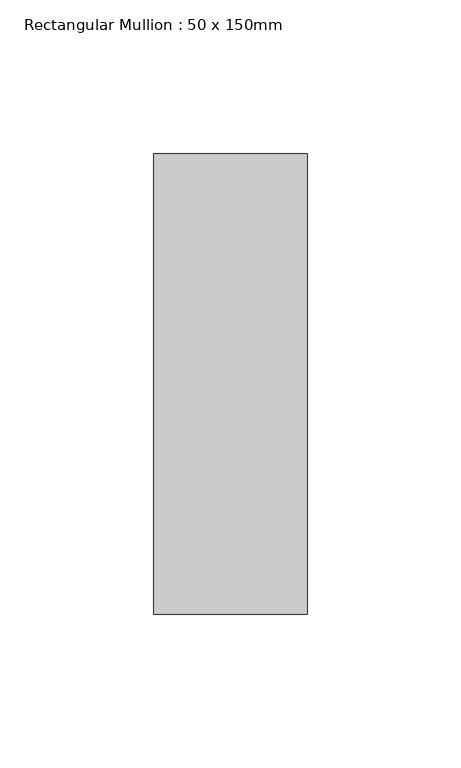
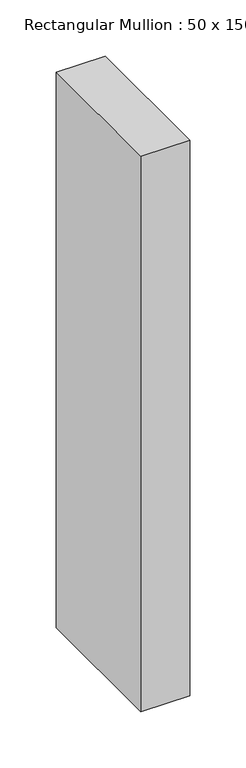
"""IFC4 building model written with IfcOpenShell, lengths in millimetres: member geometry, Rectangular Mullion : 50 x 150mm."""

import ifcopenshell
import ifcopenshell.guid

model = None  # the IFC model being written
_history = None  # IfcOwnerHistory: only IFC2X3 demands one
_inside = {}  # id of a spatial element -> (the spatial element, [elements in it])
_under = {}  # id of a project, library or spatial element -> (it, [spatial elements below it])
_declared = {}  # id of a project -> (the project, [libraries it declares])
_typed = {}  # id of a type object -> (the type object, [elements of that type])
_made_of = {}  # id of a material, layer set ... -> (it, [elements and type objects made of it])


def new_model(schema):
    """Start an empty IFC model of exactly this schema.

    Asked for "IFC4X3", IfcOpenShell would pick the latest addendum, in which some entities
    have other attributes; the version numbers below select the first issue.
    IFC2X3 requires an IfcOwnerHistory on every rooted entity: one is made here for all.
    """
    global model, _history
    if schema == "IFC4X3":
        model = ifcopenshell.file(schema_version=(4, 3, 0, 0))
    else:
        model = ifcopenshell.file(schema=schema)
    _inside.clear()
    _under.clear()
    _declared.clear()
    _typed.clear()
    _made_of.clear()
    _history = None
    if model.schema == "IFC2X3":
        org = make("IfcOrganization", Name="unknown")
        user = make(
            "IfcPersonAndOrganization",
            ThePerson=make("IfcPerson", FamilyName="unknown"),
            TheOrganization=org,
        )
        app = make(
            "IfcApplication",
            ApplicationDeveloper=org,
            Version="unknown",
            ApplicationFullName="unknown",
            ApplicationIdentifier="unknown",
        )
        _history = make(
            "IfcOwnerHistory",
            OwningUser=user,
            OwningApplication=app,
            ChangeAction="ADDED",
            CreationDate=0,
        )
    return model


def make(cls, **values):
    """One entity of the class cls with the attributes given. An attribute that is None is left unset."""
    return model.create_entity(
        cls, **{name: value for name, value in values.items() if value is not None}
    )


def rooted(cls, **values):
    """An entity with a GlobalId (a new one), such as an element, a storey or a relation."""
    return make(cls, GlobalId=ifcopenshell.guid.new(), OwnerHistory=_history, **values)


def si_unit(unit_type, name, prefix=None):
    """IfcSIUnit, for example si_unit("LENGTHUNIT", "METRE", prefix="MILLI")."""
    return make("IfcSIUnit", UnitType=unit_type, Prefix=prefix, Name=name)


def assignment(units):
    """IfcUnitAssignment: the units of a project."""
    return None if units is None else make("IfcUnitAssignment", Units=units)


def point(xyz):
    """IfcCartesianPoint."""
    return None if xyz is None else make("IfcCartesianPoint", Coordinates=xyz)


def direction(xyz):
    """IfcDirection."""
    return None if xyz is None else make("IfcDirection", DirectionRatios=xyz)


def frame(location, z_axis=None, x_axis=None):
    """IfcAxis2Placement3D, a coordinate frame: its origin and axes. An axis left out is left unset."""
    return make(
        "IfcAxis2Placement3D",
        Location=point(location),
        Axis=direction(z_axis),
        RefDirection=direction(x_axis),
    )


def origin():
    """The frame at (0, 0, 0) with its axes left unset."""
    return frame((0.0, 0.0, 0.0))


def place(relative_to, where):
    """IfcLocalPlacement: puts the frame where relative to a parent placement (None: the world)."""
    return make(
        "IfcLocalPlacement", PlacementRelTo=relative_to, RelativePlacement=where
    )


def context(
    kind, dimensions, precision=None, world=None, true_north=None, identifier=None
):
    """IfcGeometricRepresentationContext, for example the 3D "Model" context."""
    return make(
        "IfcGeometricRepresentationContext",
        ContextIdentifier=identifier,
        ContextType=kind,
        CoordinateSpaceDimension=dimensions,
        Precision=precision,
        WorldCoordinateSystem=world,
        TrueNorth=true_north,
    )


def project(units=None, contexts=None):
    """IfcProject with its units and contexts."""
    return rooted(
        "IfcProject",
        Name="project",
        RepresentationContexts=contexts,
        UnitsInContext=assignment(units),
    )


def spatial(cls, under=None, at=None, **own):
    """A site, building, storey or space (cls), placed at a placement, below another one or the project."""
    s = rooted(cls, ObjectPlacement=at, **own)
    if under is not None:
        _under.setdefault(under.id(), (under, []))[1].append(s)
    return s


def polyline(points):
    """IfcPolyline through the points."""
    return make("IfcPolyline", Points=[point(p) for p in points])


def outline(outer, holes=None, kind="AREA"):
    """IfcArbitraryClosedProfileDef: a profile drawn as a closed curve; with holes, ...WithVoids."""
    if holes is None:
        return make("IfcArbitraryClosedProfileDef", ProfileType=kind, OuterCurve=outer)
    return make(
        "IfcArbitraryProfileDefWithVoids",
        ProfileType=kind,
        OuterCurve=outer,
        InnerCurves=holes,
    )


def extrude(swept, where, along, depth):
    """IfcExtrudedAreaSolid: the profile swept, set in the frame where, extruded along a direction by depth."""
    return make(
        "IfcExtrudedAreaSolid",
        SweptArea=swept,
        Position=where,
        ExtrudedDirection=direction(along),
        Depth=depth,
    )


def shape(context_of_items, identifier, shape_type, items):
    """IfcShapeRepresentation: the items that make up one representation, for example the "Body"."""
    return make(
        "IfcShapeRepresentation",
        ContextOfItems=context_of_items,
        RepresentationIdentifier=identifier,
        RepresentationType=shape_type,
        Items=items,
    )


def source(mapping_origin, context_of_items, identifier, shape_type, items):
    """IfcRepresentationMap: a shape defined once, which mapped items show again and again."""
    return make(
        "IfcRepresentationMap",
        MappingOrigin=mapping_origin,
        MappedRepresentation=shape(context_of_items, identifier, shape_type, items),
    )


def transform(
    local_origin,
    x_axis=None,
    y_axis=None,
    z_axis=None,
    scale=None,
    scale2=None,
    scale3=None,
    uniform=True,
):
    """IfcCartesianTransformationOperator3D, or its non-uniform kind. x_axis, y_axis, z_axis: its Axis1, 2, 3."""
    if uniform:
        return make(
            "IfcCartesianTransformationOperator3D",
            Axis1=direction(x_axis),
            Axis2=direction(y_axis),
            LocalOrigin=point(local_origin),
            Scale=scale,
            Axis3=direction(z_axis),
        )
    return make(
        "IfcCartesianTransformationOperator3DnonUniform",
        Axis1=direction(x_axis),
        Axis2=direction(y_axis),
        LocalOrigin=point(local_origin),
        Scale=scale,
        Axis3=direction(z_axis),
        Scale2=scale2,
        Scale3=scale3,
    )


def mapped(mapping_source, mapping_target):
    """IfcMappedItem: shows the shape of a source again, moved by a transform."""
    return make(
        "IfcMappedItem", MappingSource=mapping_source, MappingTarget=mapping_target
    )


def made_of(thing, what):
    """Note that an element or type object is made of a material, layer set ...; save() writes the relation."""
    if what is not None:
        _made_of.setdefault(what.id(), (what, []))[1].append(thing)
    return thing


def element(
    cls,
    number,
    at=None,
    inside=None,
    cuts=None,
    type_object=None,
    material=None,
    context=None,
    identifier="Body",
    shape_type=None,
    held_by="IfcProductDefinitionShape",
    body=None,
    shapes=None,
    **own,
):
    """One element of the class cls, such as IfcWall. Its Tag is "e" and its number.

    at: its placement. inside: the storey or other place that contains it. cuts: it is an
    opening in that element (IfcRelVoidsElement). A single representation is given by context,
    identifier, shape_type and body (its items); several are given by shapes. held_by: the class
    of the entity that holds the representations. save() writes the other relations.
    """
    e = rooted(cls, Tag="e%d" % number, ObjectPlacement=at, **own)
    if body is not None:
        shapes = [shape(context, identifier, shape_type, body)]
    if shapes is not None:
        e.Representation = make(held_by, Representations=shapes)
    if inside is not None:
        _inside.setdefault(inside.id(), (inside, []))[1].append(e)
    if cuts is not None:
        rooted(
            "IfcRelVoidsElement", RelatingBuildingElement=cuts, RelatedOpeningElement=e
        )
    if type_object is not None:
        _typed.setdefault(type_object.id(), (type_object, []))[1].append(e)
    return made_of(e, material)


def aggregate(whole, parts):
    """IfcRelAggregates: a whole, such as a stair, and the parts it consists of."""
    return rooted("IfcRelAggregates", RelatingObject=whole, RelatedObjects=parts)


def save(model, path):
    """Write the relations noted so far, then the file.

    IfcRelAggregates (storeys below a building ...), IfcRelContainedInSpatialStructure (elements
    in a storey), IfcRelDefinesByType, IfcRelAssociatesMaterial and IfcRelDeclares: one each for
    every whole, place, type object, material and project.
    """
    for whole, parts in _under.values():
        aggregate(whole, parts)
    for where, things in _inside.values():
        rooted(
            "IfcRelContainedInSpatialStructure",
            RelatedElements=things,
            RelatingStructure=where,
        )
    for kind, things in _typed.values():
        rooted("IfcRelDefinesByType", RelatedObjects=things, RelatingType=kind)
    for what, things in _made_of.values():
        rooted("IfcRelAssociatesMaterial", RelatedObjects=things, RelatingMaterial=what)
    for by, libraries in _declared.values():
        rooted("IfcRelDeclares", RelatingContext=by, RelatedDefinitions=libraries)
    model.write(path)


def rectangular_mullion_50_x_150mm_eb2312db(model_context):
    return source(origin(), model_context, "Body", "SweptSolid", [
        extrude(outline(polyline([(0.0, 75.0), (0.0, -75.0), (-50.0, -75.0), (-50.0, 75.0), (0.0, 75.0)])), frame((0.0, 0.0, -601.5), z_axis=(0.0, 0.0, 1.0), x_axis=(1.0, 0.0, 0.0)), (0.0, 0.0, 1.0), 601.5),
    ])


if __name__ == "__main__":
    model = new_model("IFC4")
    model_context = context("Model", 3, world=origin())
    ifc_project = project(units=[si_unit("LENGTHUNIT", "METRE", prefix="MILLI")], contexts=[model_context])
    site = spatial("IfcSite", under=ifc_project)
    building = spatial("IfcBuilding", under=site)
    placement = place(None, origin())
    rectangular_mullion_50_x_150mm_shape = rectangular_mullion_50_x_150mm_eb2312db(model_context)
    element("IfcMember", 1, ObjectType="Rectangular Mullion : 50 x 150mm", at=placement, inside=building, context=model_context, shape_type="MappedRepresentation", body=[
        mapped(rectangular_mullion_50_x_150mm_shape, transform((0.0, 0.0, 0.0), x_axis=(1.0, 0.0, 0.0), y_axis=(0.0, 1.0, 0.0), z_axis=(0.0, 0.0, 1.0))),
    ])
    save(model, "model.ifc")
